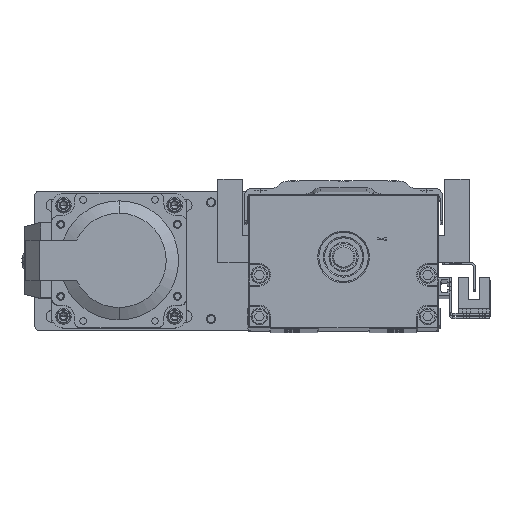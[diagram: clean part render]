
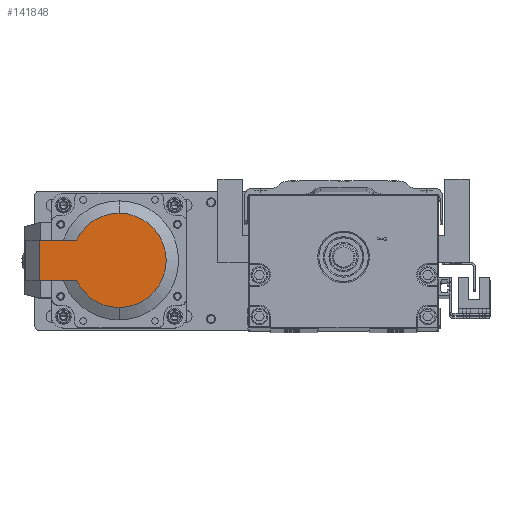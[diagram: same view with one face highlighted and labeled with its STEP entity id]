
A CAD part, top view. The second image highlights one B-rep face of the part: STEP entity #141848.
In plain terms, the highlighted planar face has unit normal (0, 0, 1).
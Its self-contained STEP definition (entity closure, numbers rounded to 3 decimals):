
#1246 = CARTESIAN_POINT ( 'NONE',  ( 85.777, -8.723, 500.168 ) ) ;
#2130 = CARTESIAN_POINT ( 'NONE',  ( 85.777, 33.277, 500.168 ) ) ;
#2962 = CARTESIAN_POINT ( 'NONE',  ( 121.36, 21.277, 500.168 ) ) ;
#3510 = DIRECTION ( 'NONE',  ( 0., 1., 0. ) ) ;
#4435 = EDGE_CURVE ( 'NONE', #139957, #90768, #115431, .T. ) ;
#10121 = DIRECTION ( 'NONE',  ( 0., -1., 0. ) ) ;
#10512 = ORIENTED_EDGE ( 'NONE', *, *, #113518, .F. ) ;
#11145 = CARTESIAN_POINT ( 'NONE',  ( 85.777, 12.277, 500.168 ) ) ;
#11644 = DIRECTION ( 'NONE',  ( 0., 0., 1. ) ) ;
#12879 = CARTESIAN_POINT ( 'NONE',  ( 121.36, 3.277, 500.168 ) ) ;
#15373 = CARTESIAN_POINT ( 'NONE',  ( 104.751, 21.277, 500.168 ) ) ;
#22591 = DIRECTION ( 'NONE',  ( 0., 1., 0. ) ) ;
#23635 = DIRECTION ( 'NONE',  ( 0., 0., 1. ) ) ;
#23877 = AXIS2_PLACEMENT_3D ( 'NONE', #35359, #25399, #3510 ) ;
#24774 = VERTEX_POINT ( 'NONE', #48357 ) ;
#25399 = DIRECTION ( 'NONE',  ( 0., 0., 1. ) ) ;
#32321 = AXIS2_PLACEMENT_3D ( 'NONE', #11145, #11644, #68340 ) ;
#35081 = DIRECTION ( 'NONE',  ( 0., 1., 0. ) ) ;
#35359 = CARTESIAN_POINT ( 'NONE',  ( 85.777, 12.277, 500.168 ) ) ;
#35569 = EDGE_CURVE ( 'NONE', #90768, #112261, #102593, .T. ) ;
#36759 = DIRECTION ( 'NONE',  ( 1., 0., 0. ) ) ;
#40783 = LINE ( 'NONE', #2962, #63948 ) ;
#45885 = ORIENTED_EDGE ( 'NONE', *, *, #76482, .T. ) ;
#48357 = CARTESIAN_POINT ( 'NONE',  ( 121.36, 3.277, 500.168 ) ) ;
#51708 = AXIS2_PLACEMENT_3D ( 'NONE', #91708, #23635, #35081 ) ;
#55859 = CARTESIAN_POINT ( 'NONE',  ( 121.36, 21.277, 500.168 ) ) ;
#56009 = CIRCLE ( 'NONE', #51708, 21. ) ;
#57584 = ORIENTED_EDGE ( 'NONE', *, *, #4435, .T. ) ;
#60610 = DIRECTION ( 'NONE',  ( 1., 0., 0. ) ) ;
#63075 = LINE ( 'NONE', #12879, #144672 ) ;
#63948 = VECTOR ( 'NONE', #36759, 1000. ) ;
#68340 = DIRECTION ( 'NONE',  ( 0., 1., 0. ) ) ;
#76482 = EDGE_CURVE ( 'NONE', #92453, #139957, #56009, .T. ) ;
#78759 = EDGE_LOOP ( 'NONE', ( #100186, #45885, #57584, #106337, #120074, #10512 ) ) ;
#79929 = EDGE_CURVE ( 'NONE', #112261, #24774, #63075, .T. ) ;
#80149 = PLANE ( 'NONE',  #101459 ) ;
#89182 = VECTOR ( 'NONE', #10121, 1000. ) ;
#89591 = VERTEX_POINT ( 'NONE', #125601 ) ;
#90768 = VERTEX_POINT ( 'NONE', #1246 ) ;
#91632 = DIRECTION ( 'NONE',  ( 0., 0., 1. ) ) ;
#91708 = CARTESIAN_POINT ( 'NONE',  ( 85.777, 12.277, 500.168 ) ) ;
#92453 = VERTEX_POINT ( 'NONE', #15373 ) ;
#100186 = ORIENTED_EDGE ( 'NONE', *, *, #107607, .F. ) ;
#101459 = AXIS2_PLACEMENT_3D ( 'NONE', #2130, #91632, #22591 ) ;
#102593 = CIRCLE ( 'NONE', #23877, 21. ) ;
#106337 = ORIENTED_EDGE ( 'NONE', *, *, #35569, .T. ) ;
#107607 = EDGE_CURVE ( 'NONE', #92453, #89591, #40783, .T. ) ;
#112261 = VERTEX_POINT ( 'NONE', #141984 ) ;
#112742 = FACE_OUTER_BOUND ( 'NONE', #78759, .T. ) ;
#113518 = EDGE_CURVE ( 'NONE', #89591, #24774, #126373, .T. ) ;
#115431 = CIRCLE ( 'NONE', #32321, 21. ) ;
#120074 = ORIENTED_EDGE ( 'NONE', *, *, #79929, .T. ) ;
#125601 = CARTESIAN_POINT ( 'NONE',  ( 121.36, 21.277, 500.168 ) ) ;
#126373 = LINE ( 'NONE', #55859, #89182 ) ;
#139957 = VERTEX_POINT ( 'NONE', #144152 ) ;
#141848 = ADVANCED_FACE ( 'NONE', ( #112742 ), #80149, .T. ) ;
#141984 = CARTESIAN_POINT ( 'NONE',  ( 104.751, 3.277, 500.168 ) ) ;
#144152 = CARTESIAN_POINT ( 'NONE',  ( 85.777, 33.277, 500.168 ) ) ;
#144672 = VECTOR ( 'NONE', #60610, 1000. ) ;
